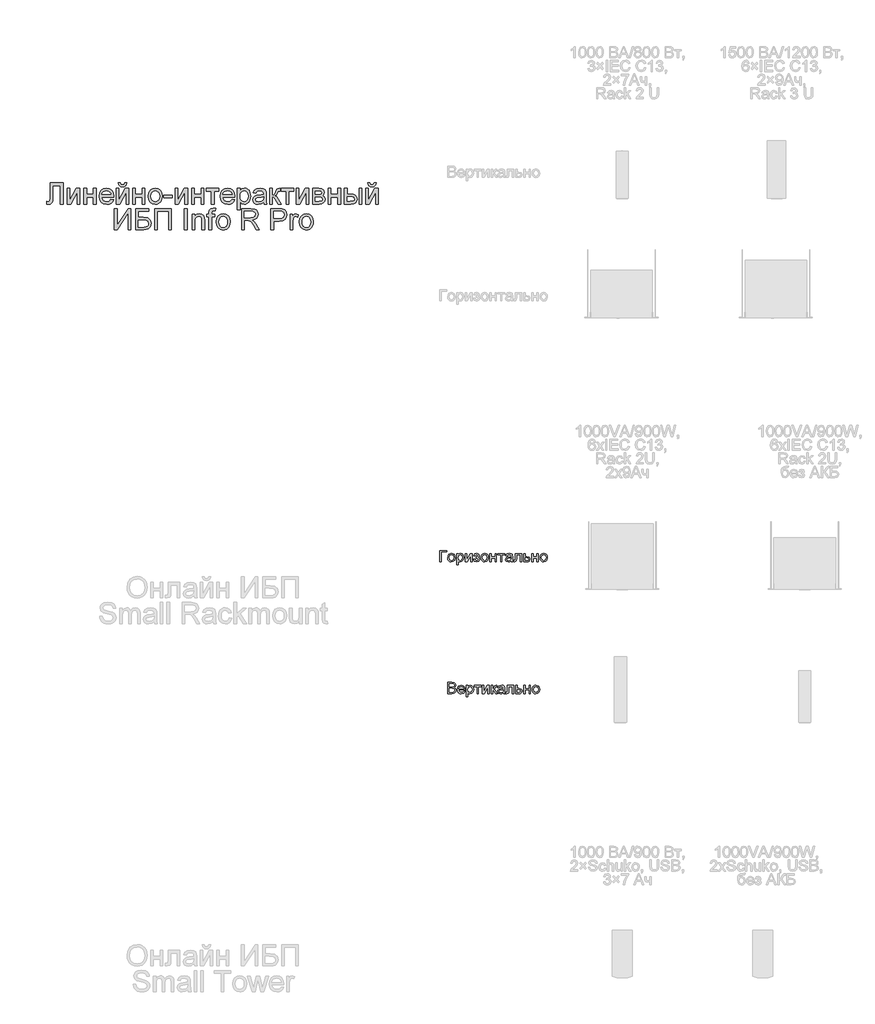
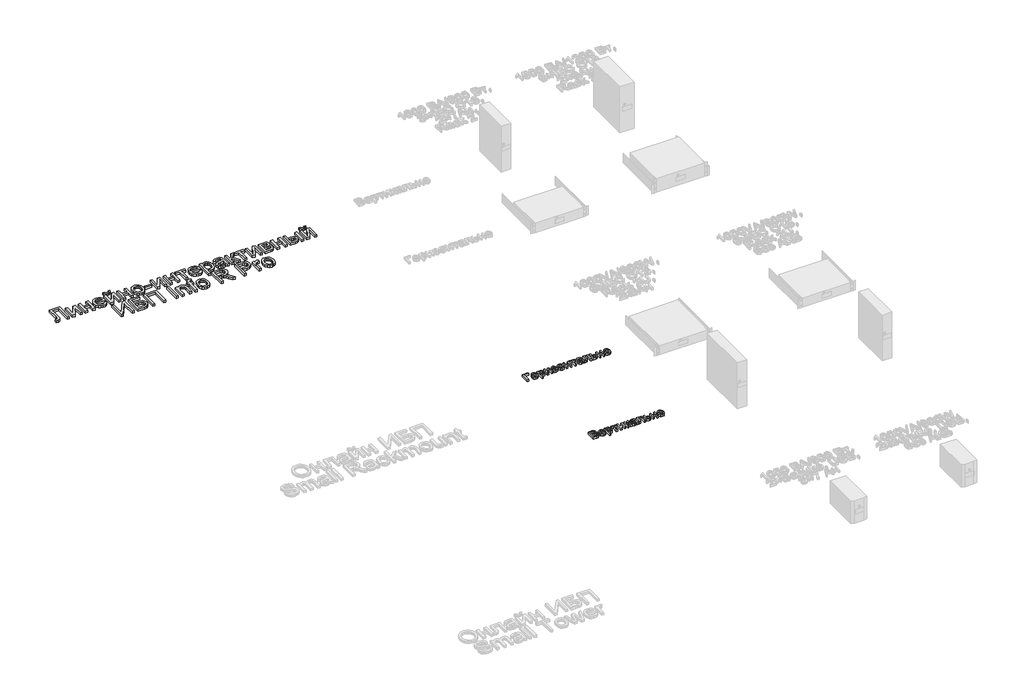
# One storey, part 64 of 74: 3 proxies.
"""IFC4 building model written with IfcOpenShell, lengths in millimetres."""

import ifcopenshell
import ifcopenshell.guid

model = None  # the IFC model being written
_history = None  # IfcOwnerHistory: only IFC2X3 demands one
_inside = {}  # id of a spatial element -> (the spatial element, [elements in it])
_under = {}  # id of a project, library or spatial element -> (it, [spatial elements below it])
_declared = {}  # id of a project -> (the project, [libraries it declares])
_typed = {}  # id of a type object -> (the type object, [elements of that type])
_made_of = {}  # id of a material, layer set ... -> (it, [elements and type objects made of it])


def new_model(schema):
    """Start an empty IFC model of exactly this schema.

    Asked for "IFC4X3", IfcOpenShell would pick the latest addendum, in which some entities
    have other attributes; the version numbers below select the first issue.
    IFC2X3 requires an IfcOwnerHistory on every rooted entity: one is made here for all.
    """
    global model, _history
    if schema == "IFC4X3":
        model = ifcopenshell.file(schema_version=(4, 3, 0, 0))
    else:
        model = ifcopenshell.file(schema=schema)
    _inside.clear()
    _under.clear()
    _declared.clear()
    _typed.clear()
    _made_of.clear()
    _history = None
    if model.schema == "IFC2X3":
        org = make("IfcOrganization", Name="unknown")
        user = make(
            "IfcPersonAndOrganization",
            ThePerson=make("IfcPerson", FamilyName="unknown"),
            TheOrganization=org,
        )
        app = make(
            "IfcApplication",
            ApplicationDeveloper=org,
            Version="unknown",
            ApplicationFullName="unknown",
            ApplicationIdentifier="unknown",
        )
        _history = make(
            "IfcOwnerHistory",
            OwningUser=user,
            OwningApplication=app,
            ChangeAction="ADDED",
            CreationDate=0,
        )
    return model


def make(cls, **values):
    """One entity of the class cls with the attributes given. An attribute that is None is left unset."""
    return model.create_entity(
        cls, **{name: value for name, value in values.items() if value is not None}
    )


def rooted(cls, **values):
    """An entity with a GlobalId (a new one), such as an element, a storey or a relation."""
    return make(cls, GlobalId=ifcopenshell.guid.new(), OwnerHistory=_history, **values)


def si_unit(unit_type, name, prefix=None):
    """IfcSIUnit, for example si_unit("LENGTHUNIT", "METRE", prefix="MILLI")."""
    return make("IfcSIUnit", UnitType=unit_type, Prefix=prefix, Name=name)


def assignment(units):
    """IfcUnitAssignment: the units of a project."""
    return None if units is None else make("IfcUnitAssignment", Units=units)


def point(xyz):
    """IfcCartesianPoint."""
    return None if xyz is None else make("IfcCartesianPoint", Coordinates=xyz)


def direction(xyz):
    """IfcDirection."""
    return None if xyz is None else make("IfcDirection", DirectionRatios=xyz)


def frame(location, z_axis=None, x_axis=None):
    """IfcAxis2Placement3D, a coordinate frame: its origin and axes. An axis left out is left unset."""
    return make(
        "IfcAxis2Placement3D",
        Location=point(location),
        Axis=direction(z_axis),
        RefDirection=direction(x_axis),
    )


def origin():
    """The frame at (0, 0, 0) with its axes left unset."""
    return frame((0.0, 0.0, 0.0))


def origin_with_axes():
    """The frame at (0, 0, 0) with the z axis (0, 0, 1) and the x axis (1, 0, 0) written out."""
    return frame((0.0, 0.0, 0.0), z_axis=(0.0, 0.0, 1.0), x_axis=(1.0, 0.0, 0.0))


def place(relative_to, where):
    """IfcLocalPlacement: puts the frame where relative to a parent placement (None: the world)."""
    return make(
        "IfcLocalPlacement", PlacementRelTo=relative_to, RelativePlacement=where
    )


def context(
    kind, dimensions, precision=None, world=None, true_north=None, identifier=None
):
    """IfcGeometricRepresentationContext, for example the 3D "Model" context."""
    return make(
        "IfcGeometricRepresentationContext",
        ContextIdentifier=identifier,
        ContextType=kind,
        CoordinateSpaceDimension=dimensions,
        Precision=precision,
        WorldCoordinateSystem=world,
        TrueNorth=true_north,
    )


def project(units=None, contexts=None):
    """IfcProject with its units and contexts."""
    return rooted(
        "IfcProject",
        Name="project",
        RepresentationContexts=contexts,
        UnitsInContext=assignment(units),
    )


def spatial(cls, under=None, at=None, **own):
    """A site, building, storey or space (cls), placed at a placement, below another one or the project."""
    s = rooted(cls, ObjectPlacement=at, **own)
    if under is not None:
        _under.setdefault(under.id(), (under, []))[1].append(s)
    return s


def polyline(points):
    """IfcPolyline through the points."""
    return make("IfcPolyline", Points=[point(p) for p in points])


def outline(outer, holes=None, kind="AREA"):
    """IfcArbitraryClosedProfileDef: a profile drawn as a closed curve; with holes, ...WithVoids."""
    if holes is None:
        return make("IfcArbitraryClosedProfileDef", ProfileType=kind, OuterCurve=outer)
    return make(
        "IfcArbitraryProfileDefWithVoids",
        ProfileType=kind,
        OuterCurve=outer,
        InnerCurves=holes,
    )


def extrude(swept, where, along, depth):
    """IfcExtrudedAreaSolid: the profile swept, set in the frame where, extruded along a direction by depth."""
    return make(
        "IfcExtrudedAreaSolid",
        SweptArea=swept,
        Position=where,
        ExtrudedDirection=direction(along),
        Depth=depth,
    )


def shape(context_of_items, identifier, shape_type, items):
    """IfcShapeRepresentation: the items that make up one representation, for example the "Body"."""
    return make(
        "IfcShapeRepresentation",
        ContextOfItems=context_of_items,
        RepresentationIdentifier=identifier,
        RepresentationType=shape_type,
        Items=items,
    )


def made_of(thing, what):
    """Note that an element or type object is made of a material, layer set ...; save() writes the relation."""
    if what is not None:
        _made_of.setdefault(what.id(), (what, []))[1].append(thing)
    return thing


def element(
    cls,
    number,
    at=None,
    inside=None,
    cuts=None,
    type_object=None,
    material=None,
    context=None,
    identifier="Body",
    shape_type=None,
    held_by="IfcProductDefinitionShape",
    body=None,
    shapes=None,
    **own,
):
    """One element of the class cls, such as IfcWall. Its Tag is "e" and its number.

    at: its placement. inside: the storey or other place that contains it. cuts: it is an
    opening in that element (IfcRelVoidsElement). A single representation is given by context,
    identifier, shape_type and body (its items); several are given by shapes. held_by: the class
    of the entity that holds the representations. save() writes the other relations.
    """
    e = rooted(cls, Tag="e%d" % number, ObjectPlacement=at, **own)
    if body is not None:
        shapes = [shape(context, identifier, shape_type, body)]
    if shapes is not None:
        e.Representation = make(held_by, Representations=shapes)
    if inside is not None:
        _inside.setdefault(inside.id(), (inside, []))[1].append(e)
    if cuts is not None:
        rooted(
            "IfcRelVoidsElement", RelatingBuildingElement=cuts, RelatedOpeningElement=e
        )
    if type_object is not None:
        _typed.setdefault(type_object.id(), (type_object, []))[1].append(e)
    return made_of(e, material)


def aggregate(whole, parts):
    """IfcRelAggregates: a whole, such as a stair, and the parts it consists of."""
    return rooted("IfcRelAggregates", RelatingObject=whole, RelatedObjects=parts)


def save(model, path):
    """Write the relations noted so far, then the file.

    IfcRelAggregates (storeys below a building ...), IfcRelContainedInSpatialStructure (elements
    in a storey), IfcRelDefinesByType, IfcRelAssociatesMaterial and IfcRelDeclares: one each for
    every whole, place, type object, material and project.
    """
    for whole, parts in _under.values():
        aggregate(whole, parts)
    for where, things in _inside.values():
        rooted(
            "IfcRelContainedInSpatialStructure",
            RelatedElements=things,
            RelatingStructure=where,
        )
    for kind, things in _typed.values():
        rooted("IfcRelDefinesByType", RelatedObjects=things, RelatingType=kind)
    for what, things in _made_of.values():
        rooted("IfcRelAssociatesMaterial", RelatedObjects=things, RelatingMaterial=what)
    for by, libraries in _declared.values():
        rooted("IfcRelDeclares", RelatingContext=by, RelatedDefinitions=libraries)
    model.write(path)


model = new_model("IFC4")

# Units and contexts
model_context = context("Model", 3, world=origin())
ifc_project = project(units=[si_unit("LENGTHUNIT", "METRE", prefix="MILLI")], contexts=[model_context])

# Site, building, storey
site = spatial("IfcSite", under=ifc_project)
building = spatial("IfcBuilding", under=site)
storey = spatial("IfcBuildingStorey", under=building, Name="Этаж 01", Elevation=0.0)

# Proxies
placement = place(None, origin())
element("IfcBuildingElementProxy", 1, Name="150 мм Arial", ObjectType="150 мм Arial", at=placement, inside=storey, context=model_context, shape_type="SweptSolid", body=[
    extrude(outline(polyline([(-2725.4866549, 4071.0132127), (-2633.6633089, 4071.0132127), (-2633.6633089, 3920.3287475), (-2652.4988671, 3920.3287475), (-2652.4988671, 4052.1776545), (-2706.6510968, 4052.1776545), (-2706.6510968, 3975.2903176), (-2708.8399947, 3940.9853215), (-2712.2291075, 3931.2916309), (-2718.0186504, 3924.0259615), (-2725.9465074, 3919.4872174), (-2735.7505626, 3917.9743027), (-2751.3855474, 3920.3287475), (-2749.0311026, 3939.1643056), (-2740.0179937, 3936.8098609), (-2729.1102926, 3941.8682383), (-2725.4866549, 3965.6885975), (-2725.4866549, 4071.0132127)])), origin_with_axes(), (0.0, 0.0, 1.0), 20.0),
    extrude(outline(polyline([(-2603.0555269, 4030.9876516), (-2584.2199688, 4030.9876516), (-2584.2199688, 3946.5955219), (-2537.9404138, 4030.9876516), (-2513.5866257, 4030.9876516), (-2513.5866257, 3920.3287475), (-2532.4221839, 3920.3287475), (-2532.4221839, 4004.2058424), (-2578.4074333, 3920.3287475), (-2603.0555269, 3920.3287475), (-2603.0555269, 4030.9876516)])), origin_with_axes(), (0.0, 0.0, 1.0), 20.0),
    extrude(outline(polyline([(-2485.3332885, 4030.9876516), (-2466.4977303, 4030.9876516), (-2466.4977303, 3988.6076458), (-2417.0543902, 3988.6076458), (-2417.0543902, 4030.9876516), (-2398.218832, 4030.9876516), (-2398.218832, 3920.3287475), (-2417.0543902, 3920.3287475), (-2417.0543902, 3969.7720876), (-2466.4977303, 3969.7720876), (-2466.4977303, 3920.3287475), (-2485.3332885, 3920.3287475), (-2485.3332885, 4030.9876516)])), origin_with_axes(), (0.0, 0.0, 1.0), 20.0),
    extrude(outline(polyline([(-2292.4895466, 3953.2909742), (-2274.0218705, 3950.9365295), (-2280.675936, 3937.021393), (-2291.2939301, 3926.6195296), (-2305.6367294, 3920.1356094), (-2323.4652106, 3917.9743027), (-2345.5657215, 3921.7037064), (-2362.5710667, 3932.8919176), (-2373.4143885, 3950.8123693), (-2377.0288291, 3974.7384946), (-2373.3776003, 3999.4693617), (-2362.4239139, 4017.964629), (-2345.6484949, 4029.4977295), (-2324.5320684, 4033.3420964), (-2304.0732309, 4029.5069266), (-2287.7254748, 4018.0014172), (-2277.0063131, 3999.5429381), (-2273.4332593, 3974.8488592), (-2273.5436239, 3969.7720876), (-2358.1932709, 3969.7720876), (-2354.9329168, 3955.6730102), (-2347.3591462, 3945.3079349), (-2336.4284524, 3938.9343794), (-2323.0973286, 3936.8098609), (-2304.6296524, 3940.7461982), (-2292.4895466, 3953.2909742)]), holes=[polyline([(-2358.1932709, 3988.6076458), (-2292.2688174, 3988.6076458), (-2294.8164002, 3998.5588537), (-2299.8103983, 4005.6773704), (-2310.7916759, 4012.2992463), (-2324.6056448, 4014.5065382), (-2337.3021721, 4012.7453032), (-2347.8006046, 4007.461598), (-2355.0984637, 3999.2256399), (-2358.1932709, 3988.6076458)])]), origin_with_axes(), (0.0, 0.0, 1.0), 20.0),
    extrude(outline(polyline([(-2254.5977011, 4030.9876516), (-2235.762143, 4030.9876516), (-2235.762143, 3946.5955219), (-2189.482588, 4030.9876516), (-2165.1287999, 4030.9876516), (-2165.1287999, 3920.3287475), (-2183.964358, 3920.3287475), (-2183.964358, 4004.2058424), (-2229.9496074, 3920.3287475), (-2254.5977011, 3920.3287475), (-2254.5977011, 4030.9876516)])), origin_with_axes(), (0.0, 0.0, 1.0), 20.0),
    extrude(outline(polyline([(-2193.3821371, 4071.0132127), (-2179.2554685, 4071.0132127), (-2182.2950935, 4058.9512818), (-2188.3973361, 4050.0623331), (-2197.2862848, 4044.5854899), (-2208.6860281, 4042.7598755), (-2221.0560602, 4044.5716943), (-2230.6485832, 4050.0071508), (-2237.2060798, 4058.8823039), (-2240.4710325, 4071.0132127), (-2226.3443639, 4071.0132127), (-2221.0468631, 4060.3998171), (-2210.3782853, 4056.8865441), (-2198.6796378, 4060.2894525), (-2193.3821371, 4071.0132127)])), origin_with_axes(), (0.0, 0.0, 1.0), 20.0),
    extrude(outline(polyline([(-2136.8754626, 4030.9876516), (-2118.0399045, 4030.9876516), (-2118.0399045, 3988.6076458), (-2068.5965643, 3988.6076458), (-2068.5965643, 4030.9876516), (-2049.7610062, 4030.9876516), (-2049.7610062, 3920.3287475), (-2068.5965643, 3920.3287475), (-2068.5965643, 3969.7720876), (-2118.0399045, 3969.7720876), (-2118.0399045, 3920.3287475), (-2136.8754626, 3920.3287475), (-2136.8754626, 4030.9876516)])), origin_with_axes(), (0.0, 0.0, 1.0), 20.0),
    extrude(outline(polyline([(-2026.2165585, 3975.6581995), (-2022.1422654, 4002.3388412), (-2009.9193861, 4021.091626), (-1994.8178302, 4030.2794788), (-1976.7364301, 4033.3420964), (-1956.9489773, 4029.6126927), (-1941.1438471, 4018.4244815), (-1930.7833704, 4000.6603796), (-1927.3298782, 3977.2033039), (-1928.8565885, 3958.1746077), (-1933.4367193, 3943.6892542), (-1940.9369135, 3932.8413338), (-1951.2238138, 3924.7249373), (-1963.4420945, 3919.6619614), (-1976.7364301, 3917.9743027), (-1996.7630063, 3921.6899109), (-2012.5497424, 3932.8367353), (-2022.7998545, 3950.9733177), (-2026.2165585, 3975.6581995)]), holes=[polyline([(-2007.3810003, 3975.6949877), (-2005.2012995, 3958.6482558), (-1998.6621971, 3946.5035514), (-1988.8213537, 3939.2332835), (-1976.7364301, 3936.8098609), (-1964.7066889, 3939.2470791), (-1954.8842396, 3946.5587337), (-1948.3451372, 3958.8643865), (-1946.1654363, 3976.2835989), (-1948.3589327, 3992.8336902), (-1954.9394219, 4004.8128477), (-1964.7756668, 4012.0831156), (-1976.7364301, 4014.5065382), (-1988.8213537, 4012.0923126), (-1998.6621971, 4004.8496359), (-2005.2012995, 3992.7325226), (-2007.3810003, 3975.6949877)])]), origin_with_axes(), (0.0, 0.0, 1.0), 20.0),
    extrude(outline(polyline([(-1915.5576544, 3965.0631981), (-1915.5576544, 3983.8987562), (-1856.6965351, 3983.8987562), (-1856.6965351, 3965.0631981), (-1915.5576544, 3965.0631981)])), origin_with_axes(), (0.0, 0.0, 1.0), 20.0),
    extrude(outline(polyline([(-1835.5065322, 4030.9876516), (-1816.670974, 4030.9876516), (-1816.670974, 3946.5955219), (-1770.3914191, 4030.9876516), (-1746.037631, 4030.9876516), (-1746.037631, 3920.3287475), (-1764.8731891, 3920.3287475), (-1764.8731891, 4004.2058424), (-1810.8584385, 3920.3287475), (-1835.5065322, 3920.3287475), (-1835.5065322, 4030.9876516)])), origin_with_axes(), (0.0, 0.0, 1.0), 20.0),
    extrude(outline(polyline([(-1717.7842937, 4030.9876516), (-1698.9487356, 4030.9876516), (-1698.9487356, 3988.6076458), (-1649.5053954, 3988.6076458), (-1649.5053954, 4030.9876516), (-1630.6698373, 4030.9876516), (-1630.6698373, 3920.3287475), (-1649.5053954, 3920.3287475), (-1649.5053954, 3969.7720876), (-1698.9487356, 3969.7720876), (-1698.9487356, 3920.3287475), (-1717.7842937, 3920.3287475), (-1717.7842937, 4030.9876516)])), origin_with_axes(), (0.0, 0.0, 1.0), 20.0),
    extrude(outline(polyline([(-1611.8342791, 4030.9876516), (-1522.3653779, 4030.9876516), (-1522.3653779, 4012.1520935), (-1557.6820494, 4012.1520935), (-1557.6820494, 3920.3287475), (-1576.5176076, 3920.3287475), (-1576.5176076, 4012.1520935), (-1611.8342791, 4012.1520935), (-1611.8342791, 4030.9876516)])), origin_with_axes(), (0.0, 0.0, 1.0), 20.0),
    extrude(outline(polyline([(-1428.4083163, 3953.2909742), (-1409.9406402, 3950.9365295), (-1416.5947058, 3937.021393), (-1427.2126999, 3926.6195296), (-1441.5554991, 3920.1356094), (-1459.3839803, 3917.9743027), (-1481.4844912, 3921.7037064), (-1498.4898364, 3932.8919176), (-1509.3331582, 3950.8123693), (-1512.9475988, 3974.7384946), (-1509.29637, 3999.4693617), (-1498.3426836, 4017.964629), (-1481.5672646, 4029.4977295), (-1460.4508381, 4033.3420964), (-1439.9920007, 4029.5069266), (-1423.6442445, 4018.0014172), (-1412.9250829, 3999.5429381), (-1409.352029, 3974.8488592), (-1409.4623936, 3969.7720876), (-1494.1120407, 3969.7720876), (-1490.8516865, 3955.6730102), (-1483.2779159, 3945.3079349), (-1472.3472221, 3938.9343794), (-1459.0160983, 3936.8098609), (-1440.5484222, 3940.7461982), (-1428.4083163, 3953.2909742)]), holes=[polyline([(-1494.1120407, 3988.6076458), (-1428.1875871, 3988.6076458), (-1430.73517, 3998.5588537), (-1435.729168, 4005.6773704), (-1446.7104456, 4012.2992463), (-1460.5244145, 4014.5065382), (-1473.2209419, 4012.7453032), (-1483.7193743, 4007.461598), (-1491.0172334, 3999.2256399), (-1494.1120407, 3988.6076458)])]), origin_with_axes(), (0.0, 0.0, 1.0), 20.0),
    extrude(outline(polyline([(-1390.5164708, 3877.9487416), (-1390.5164708, 4030.9876516), (-1371.6809127, 4030.9876516), (-1371.6809127, 4012.5199755), (-1358.6578901, 4028.1365662), (-1341.0731307, 4033.3420964), (-1328.3352166, 4031.5210805), (-1317.1975892, 4026.0580329), (-1308.129298, 4017.2840473), (-1301.5993926, 4005.5302176), (-1296.3386801, 3976.5043281), (-1297.8240036, 3960.3956953), (-1302.2799743, 3945.9885166), (-1309.5640378, 3934.0139577), (-1319.5336399, 3925.2031839), (-1331.1449153, 3919.781523), (-1343.3539991, 3917.9743027), (-1359.7431419, 3922.8119509), (-1371.6809127, 3935.0440273), (-1371.6809127, 3877.9487416), (-1390.5164708, 3877.9487416)]), holes=[polyline([(-1371.6809127, 3974.7752828), (-1369.6437661, 3957.8894992), (-1363.5323265, 3946.0804871), (-1354.5146191, 3939.1275174), (-1343.7586692, 3936.8098609), (-1332.8279755, 3939.2102909), (-1323.5803418, 3946.4115809), (-1317.2757641, 3958.6528543), (-1315.1742382, 3976.1732343), (-1317.2251803, 3992.9670474), (-1323.3780067, 4004.9416064), (-1332.3819185, 4012.1153053), (-1342.9861171, 4014.5065382), (-1353.6317023, 4011.9635539), (-1362.9805035, 4004.3346011), (-1369.5058104, 3991.8588029), (-1371.6809127, 3974.7752828)])]), origin_with_axes(), (0.0, 0.0, 1.0), 20.0),
    extrude(outline(polyline([(-1204.5153341, 3934.4554161), (-1222.7806751, 3921.6899109), (-1242.9590026, 3917.9743027), (-1258.6997534, 3920.2091858), (-1270.3110289, 3926.9138352), (-1277.4709322, 3937.0949694), (-1279.8575667, 3949.7593071), (-1276.2523231, 3964.6585279), (-1266.7793618, 3975.4742586), (-1253.5907922, 3981.6546761), (-1237.2936198, 3984.4873674), (-1204.6256987, 3990.9620905), (-1204.5153341, 3995.1559453), (-1205.8121181, 4003.5620489), (-1209.7024702, 4009.0618847), (-1218.4028794, 4013.1453749), (-1230.5245911, 4014.5065382), (-1249.5808785, 4010.8829006), (-1258.6675638, 3998.0254249), (-1277.5031219, 4000.3798696), (-1269.3545357, 4018.7739694), (-1252.9469987, 4029.5529118), (-1228.09657, 4033.3420964), (-1205.2694922, 4029.9943702), (-1192.3752282, 4021.5882666), (-1186.5994809, 4008.8043673), (-1185.6797759, 3992.3232539), (-1185.6797759, 3968.8891708), (-1184.7232827, 3936.1660674), (-1180.9708864, 3920.3287475), (-1199.8064445, 3920.3287475), (-1204.5153341, 3934.4554161)]), holes=[polyline([(-1204.5153341, 3972.1265324), (-1234.9023869, 3966.3507851), (-1251.1075888, 3963.2973645), (-1258.4468346, 3958.3309576), (-1261.0220085, 3951.0836823), (-1255.4118081, 3940.893351), (-1238.9490888, 3936.8098609), (-1219.8928015, 3941.3164153), (-1207.6055428, 3952.2241165), (-1204.6256987, 3966.7922435), (-1204.5153341, 3972.1265324)])]), origin_with_axes(), (0.0, 0.0, 1.0), 20.0),
    extrude(outline(polyline([(-1159.7808835, 4030.9876516), (-1140.9453253, 4030.9876516), (-1140.9453253, 3983.8987562), (-1128.3269729, 3987.2832706), (-1117.9894888, 4007.0017455), (-1109.3994442, 4024.0162878), (-1101.8210751, 4029.5529118), (-1088.0438944, 4030.9876516), (-1084.4386508, 4030.9876516), (-1084.4386508, 4012.0417289), (-1089.5154224, 4012.1520935), (-1098.7124723, 4010.1655307), (-1105.1871954, 3997.7679075), (-1112.7839586, 3984.3586087), (-1123.4341423, 3977.7919151), (-1111.5515539, 3970.4618664), (-1099.8896946, 3955.0200196), (-1079.7297613, 3920.3287475), (-1101.1404934, 3920.3287475), (-1120.8957566, 3954.2842556), (-1130.8285704, 3968.6500475), (-1140.9453253, 3972.1265324), (-1140.9453253, 3920.3287475), (-1159.7808835, 3920.3287475), (-1159.7808835, 4030.9876516)])), origin_with_axes(), (0.0, 0.0, 1.0), 20.0),
    extrude(outline(polyline([(-1077.3753165, 4030.9876516), (-987.9064153, 4030.9876516), (-987.9064153, 4012.1520935), (-1023.2230869, 4012.1520935), (-1023.2230869, 3920.3287475), (-1042.058645, 3920.3287475), (-1042.058645, 4012.1520935), (-1077.3753165, 4012.1520935), (-1077.3753165, 4030.9876516)])), origin_with_axes(), (0.0, 0.0, 1.0), 20.0),
    extrude(outline(polyline([(-971.4253019, 4030.9876516), (-952.5897438, 4030.9876516), (-952.5897438, 3946.5955219), (-906.3101888, 4030.9876516), (-881.9564007, 4030.9876516), (-881.9564007, 3920.3287475), (-900.7919589, 3920.3287475), (-900.7919589, 4004.2058424), (-946.7772083, 3920.3287475), (-971.4253019, 3920.3287475), (-971.4253019, 4030.9876516)])), origin_with_axes(), (0.0, 0.0, 1.0), 20.0),
    extrude(outline(polyline([(-853.7030635, 4030.9876516), (-812.2059744, 4030.9876516), (-789.452473, 4028.46766), (-776.6501796, 4019.2338219), (-771.2974966, 4003.1389846), (-774.5348581, 3990.0607797), (-784.283731, 3980.7349711), (-771.6285903, 3970.5262457), (-766.588607, 3952.7759394), (-769.7799833, 3938.4193446), (-777.3675495, 3928.3117868), (-789.3788966, 3922.3245073), (-805.8416159, 3920.3287475), (-853.7030635, 3920.3287475), (-853.7030635, 4030.9876516)]), holes=[polyline([(-834.8675053, 3988.6076458), (-816.2526764, 3988.6076458), (-800.8936031, 3989.564139), (-793.4255986, 3993.3901117), (-790.1330547, 4000.3062932), (-791.5769915, 4005.9256907), (-795.908802, 4009.5401313), (-815.6640652, 4012.1520935), (-834.8675053, 4012.1520935), (-834.8675053, 3988.6076458)]), polyline([(-834.8675053, 3939.1643056), (-811.764516, 3939.1643056), (-791.2734889, 3942.5672141), (-787.0336489, 3947.2071257), (-785.4241652, 3954.3210438), (-788.6431326, 3963.389335), (-797.0308421, 3968.6684416), (-813.603926, 3969.7720876), (-834.8675053, 3969.7720876), (-834.8675053, 3939.1643056)])]), origin_with_axes(), (0.0, 0.0, 1.0), 20.0),
    extrude(outline(polyline([(-743.0441593, 4030.9876516), (-724.2086012, 4030.9876516), (-724.2086012, 3988.6076458), (-674.765261, 3988.6076458), (-674.765261, 4030.9876516), (-655.9297029, 4030.9876516), (-655.9297029, 3920.3287475), (-674.765261, 3920.3287475), (-674.765261, 3969.7720876), (-724.2086012, 3969.7720876), (-724.2086012, 3920.3287475), (-743.0441593, 3920.3287475), (-743.0441593, 4030.9876516)])), origin_with_axes(), (0.0, 0.0, 1.0), 20.0),
    extrude(outline(polyline([(-524.0807958, 4030.9876516), (-505.2452376, 4030.9876516), (-505.2452376, 3920.3287475), (-524.0807958, 3920.3287475), (-524.0807958, 4030.9876516)])), origin_with_axes(), (0.0, 0.0, 1.0), 20.0),
    extrude(outline(polyline([(-627.6763656, 4030.9876516), (-608.8408075, 4030.9876516), (-608.8408075, 3990.9620905), (-585.5538772, 3990.9620905), (-565.4261335, 3988.6030473), (-550.5131171, 3981.5259174), (-541.2838776, 3970.300918), (-538.2074644, 3955.4982662), (-540.7872369, 3942.0199896), (-548.5265544, 3930.6478374), (-561.9312546, 3922.90852), (-581.5071752, 3920.3287475), (-627.6763656, 3920.3287475), (-627.6763656, 4030.9876516)]), holes=[polyline([(-608.8408075, 3939.1643056), (-589.4902145, 3939.1643056), (-564.5110271, 3943.1190371), (-558.9100237, 3948.182013), (-557.0430226, 3955.461478), (-562.5796466, 3967.0497609), (-571.4593982, 3970.8573395), (-587.0254052, 3972.1265324), (-608.8408075, 3972.1265324), (-608.8408075, 3939.1643056)])]), origin_with_axes(), (0.0, 0.0, 1.0), 20.0),
    extrude(outline(polyline([(-476.9919004, 4030.9876516), (-458.1563423, 4030.9876516), (-458.1563423, 3946.5955219), (-411.8767873, 4030.9876516), (-387.5229992, 4030.9876516), (-387.5229992, 3920.3287475), (-406.3585573, 3920.3287475), (-406.3585573, 4004.2058424), (-452.3438067, 3920.3287475), (-476.9919004, 3920.3287475), (-476.9919004, 4030.9876516)])), origin_with_axes(), (0.0, 0.0, 1.0), 20.0),
    extrude(outline(polyline([(-415.7763364, 4071.0132127), (-401.6496678, 4071.0132127), (-404.6892928, 4058.9512818), (-410.7915354, 4050.0623331), (-419.6804841, 4044.5854899), (-431.0802274, 4042.7598755), (-443.4502595, 4044.5716943), (-453.0427825, 4050.0071508), (-459.6002791, 4058.8823039), (-462.8652318, 4071.0132127), (-448.7385632, 4071.0132127), (-443.4410625, 4060.3998171), (-432.7724846, 4056.8865441), (-421.0738371, 4060.2894525), (-415.7763364, 4071.0132127)])), origin_with_axes(), (0.0, 0.0, 1.0), 20.0),
    extrude(outline(polyline([(-2267.5471473, 3888.0509859), (-2248.7115892, 3888.0509859), (-2248.7115892, 3768.7100667), (-2169.8376894, 3888.0509859), (-2149.8249089, 3888.0509859), (-2149.8249089, 3737.3665207), (-2168.660467, 3737.3665207), (-2168.660467, 3856.3763461), (-2247.3504258, 3737.3665207), (-2267.5471473, 3737.3665207), (-2267.5471473, 3888.0509859)])), origin_with_axes(), (0.0, 0.0, 1.0), 20.0),
    extrude(outline(polyline([(-2116.8626821, 3888.0509859), (-2022.6848913, 3888.0509859), (-2022.6848913, 3869.2154278), (-2098.027124, 3869.2154278), (-2098.027124, 3824.4809772), (-2062.7472406, 3824.4809772), (-2031.661212, 3820.6550044), (-2021.2593486, 3815.1275774), (-2013.1567477, 3806.197242), (-2007.9420204, 3794.7009297), (-2006.203778, 3781.4755719), (-2011.1517908, 3760.0096575), (-2025.9222529, 3743.694091), (-2039.1935959, 3738.9484133), (-2059.3627263, 3737.3665207), (-2116.8626821, 3737.3665207), (-2116.8626821, 3888.0509859)]), holes=[polyline([(-2098.027124, 3756.2020789), (-2057.6704691, 3756.2020789), (-2043.4058447, 3757.7563803), (-2033.2063164, 3762.4192846), (-2027.0810812, 3770.1907917), (-2025.0393361, 3781.0709017), (-2029.7114375, 3795.8229697), (-2042.716066, 3803.6956444), (-2071.0981619, 3805.645419), (-2098.027124, 3805.645419), (-2098.027124, 3756.2020789)])]), origin_with_axes(), (0.0, 0.0, 1.0), 20.0),
    extrude(outline(polyline([(-1980.3048855, 3888.0509859), (-1862.582647, 3888.0509859), (-1862.582647, 3737.3665207), (-1881.4182052, 3737.3665207), (-1881.4182052, 3869.2154278), (-1961.4693273, 3869.2154278), (-1961.4693273, 3737.3665207), (-1980.3048855, 3737.3665207), (-1980.3048855, 3888.0509859)])), origin_with_axes(), (0.0, 0.0, 1.0), 20.0),
    extrude(outline(polyline([(-1768.4048563, 3737.3665207), (-1768.4048563, 3888.0509859), (-1749.5692981, 3888.0509859), (-1749.5692981, 3737.3665207), (-1768.4048563, 3737.3665207)])), origin_with_axes(), (0.0, 0.0, 1.0), 20.0),
    extrude(outline(polyline([(-1714.2526266, 3737.3665207), (-1714.2526266, 3848.0254249), (-1695.4170684, 3848.0254249), (-1695.4170684, 3832.5743811), (-1681.0144883, 3845.9284975), (-1661.3511957, 3850.3798696), (-1643.5641012, 3846.7930202), (-1631.4239954, 3837.3752411), (-1625.7770068, 3823.524484), (-1624.7837254, 3805.3143252), (-1624.7837254, 3737.3665207), (-1643.6192835, 3737.3665207), (-1643.6192835, 3802.7759394), (-1645.7897873, 3819.4409938), (-1653.4601269, 3828.2517676), (-1666.391179, 3831.5443115), (-1677.4230403, 3829.6957044), (-1686.8270238, 3824.1498834), (-1693.2695573, 3813.4353203), (-1695.4170684, 3796.0804871), (-1695.4170684, 3737.3665207), (-1714.2526266, 3737.3665207)])), origin_with_axes(), (0.0, 0.0, 1.0), 20.0),
    extrude(outline(polyline([(-1594.1759434, 3737.3665207), (-1594.1759434, 3829.1898667), (-1610.6570567, 3829.1898667), (-1610.6570567, 3848.0254249), (-1594.1759434, 3848.0254249), (-1594.1759434, 3859.1722493), (-1592.1893806, 3874.8808105), (-1582.5508723, 3886.1012114), (-1563.5681614, 3890.4054307), (-1546.3880722, 3888.3452915), (-1549.1471872, 3870.6869558), (-1559.999706, 3871.5698725), (-1571.8639004, 3868.4428756), (-1575.3403852, 3856.7810163), (-1575.3403852, 3848.0254249), (-1554.1503823, 3848.0254249), (-1554.1503823, 3829.1898667), (-1575.3403852, 3829.1898667), (-1575.3403852, 3737.3665207), (-1594.1759434, 3737.3665207)])), origin_with_axes(), (0.0, 0.0, 1.0), 20.0),
    extrude(outline(polyline([(-1542.3781584, 3792.6959728), (-1538.3038653, 3819.3766145), (-1526.0809861, 3838.1293992), (-1510.9794302, 3847.317252), (-1492.8980301, 3850.3798696), (-1473.1105773, 3846.6504659), (-1457.3054471, 3835.4622547), (-1446.9449704, 3817.6981529), (-1443.4914781, 3794.2410772), (-1445.0181884, 3775.212381), (-1449.5983193, 3760.7270274), (-1457.0985134, 3749.8791071), (-1467.3854137, 3741.7627105), (-1479.6036945, 3736.6997346), (-1492.8980301, 3735.0120759), (-1512.9246062, 3738.7276841), (-1528.7113423, 3749.8745085), (-1538.9614544, 3768.0110909), (-1542.3781584, 3792.6959728)]), holes=[polyline([(-1523.5426003, 3792.732761), (-1521.3628995, 3775.686029), (-1514.823797, 3763.5413247), (-1504.9829536, 3756.2710567), (-1492.8980301, 3753.8476341), (-1480.8682889, 3756.2848523), (-1471.0458396, 3763.596507), (-1464.5067371, 3775.9021597), (-1462.3270363, 3793.3213722), (-1464.5205327, 3809.8714634), (-1471.1010219, 3821.8506209), (-1480.9372667, 3829.1208888), (-1492.8980301, 3831.5443115), (-1504.9829536, 3829.1300859), (-1514.823797, 3821.8874091), (-1521.3628995, 3809.7702959), (-1523.5426003, 3792.732761)])]), origin_with_axes(), (0.0, 0.0, 1.0), 20.0),
    extrude(outline(polyline([(-1361.0859112, 3737.3665207), (-1361.0859112, 3888.0509859), (-1296.1547391, 3888.0509859), (-1266.0068096, 3883.9858899), (-1256.7269862, 3878.3572954), (-1249.5256962, 3869.6017039), (-1244.9041786, 3858.7445865), (-1243.3636728, 3846.8114143), (-1245.9158541, 3831.9673758), (-1253.5723981, 3819.661723), (-1266.5632311, 3810.6394171), (-1285.1182792, 3805.645419), (-1274.4129132, 3797.5888033), (-1259.1458104, 3778.2014222), (-1234.0194701, 3737.3665207), (-1255.9084488, 3737.3665207), (-1275.5165591, 3768.5997021), (-1289.680016, 3789.2746702), (-1299.6312239, 3799.0419372), (-1308.5891505, 3802.6287867), (-1319.5152458, 3803.2909742), (-1342.2503531, 3803.2909742), (-1342.2503531, 3737.3665207), (-1361.0859112, 3737.3665207)]), holes=[polyline([(-1342.2503531, 3822.1265324), (-1300.0910764, 3822.1265324), (-1278.5883738, 3824.7936769), (-1266.3746916, 3833.3285391), (-1262.1992309, 3846.1124385), (-1264.1903922, 3855.3002913), (-1270.1638761, 3862.7039165), (-1280.4415794, 3867.5875499), (-1295.3453987, 3869.2154278), (-1342.2503531, 3869.2154278), (-1342.2503531, 3822.1265324)])]), origin_with_axes(), (0.0, 0.0, 1.0), 20.0),
    extrude(outline(polyline([(-1151.5403268, 3737.3665207), (-1151.5403268, 3888.0509859), (-1095.6958399, 3888.0509859), (-1073.1814618, 3886.6162461), (-1054.8793325, 3879.5713059), (-1043.0151382, 3865.0031789), (-1038.5269778, 3844.4569695), (-1041.5574058, 3826.6974662), (-1050.6486896, 3811.8994129), (-1067.6494363, 3801.9114168), (-1094.4082529, 3798.5820847), (-1132.7047686, 3798.5820847), (-1132.7047686, 3737.3665207), (-1151.5403268, 3737.3665207)]), holes=[polyline([(-1132.7047686, 3817.4176429), (-1093.3046069, 3817.4176429), (-1076.6027644, 3819.1466882), (-1065.5663045, 3824.3338244), (-1059.4134781, 3832.6571545), (-1057.362536, 3843.7947819), (-1062.2001842, 3859.3929785), (-1074.9105072, 3867.9278408), (-1093.7460653, 3869.2154278), (-1132.7047686, 3869.2154278), (-1132.7047686, 3817.4176429)])]), origin_with_axes(), (0.0, 0.0, 1.0), 20.0),
    extrude(outline(polyline([(-1014.9825302, 3737.3665207), (-1014.9825302, 3848.0254249), (-998.5014168, 3848.0254249), (-998.5014168, 3831.6546761), (-986.8027693, 3846.7378379), (-975.0305455, 3850.3798696), (-956.1214109, 3844.5673341), (-962.412193, 3827.6815505), (-975.6559449, 3831.5443115), (-986.3061286, 3827.8287033), (-993.0935514, 3817.5280075), (-996.146972, 3795.5286641), (-996.146972, 3737.3665207), (-1014.9825302, 3737.3665207)])), origin_with_axes(), (0.0, 0.0, 1.0), 20.0),
    extrude(outline(polyline([(-949.0580766, 3792.6959728), (-944.9837835, 3819.3766145), (-932.7609042, 3838.1293992), (-917.6593483, 3847.317252), (-899.5779483, 3850.3798696), (-879.7904955, 3846.6504659), (-863.9853652, 3835.4622547), (-853.6248885, 3817.6981529), (-850.1713963, 3794.2410772), (-851.6981066, 3775.212381), (-856.2782374, 3760.7270274), (-863.7784316, 3749.8791071), (-874.0653319, 3741.7627105), (-886.2836127, 3736.6997346), (-899.5779483, 3735.0120759), (-919.6045244, 3738.7276841), (-935.3912605, 3749.8745085), (-945.6413726, 3768.0110909), (-949.0580766, 3792.6959728)]), holes=[polyline([(-930.2225185, 3792.732761), (-928.0428176, 3775.686029), (-921.5037152, 3763.5413247), (-911.6628718, 3756.2710567), (-899.5779483, 3753.8476341), (-887.548207, 3756.2848523), (-877.7257578, 3763.596507), (-871.1866553, 3775.9021597), (-869.0069545, 3793.3213722), (-871.2004509, 3809.8714634), (-877.7809401, 3821.8506209), (-887.6171849, 3829.1208888), (-899.5779483, 3831.5443115), (-911.6628718, 3829.1300859), (-921.5037152, 3821.8874091), (-928.0428176, 3809.7702959), (-930.2225185, 3792.732761)])]), origin_with_axes(), (0.0, 0.0, 1.0), 20.0),
])
element("IfcBuildingElementProxy", 2, Name="80 мм Arial", ObjectType="80 мм Arial", at=placement, inside=storey, context=model_context, shape_type="SweptSolid", body=[
    extrude(outline(polyline([(107.354428, 429.9470378), (107.354428, 510.3120859), (138.0210711, 510.3120859), (153.0404667, 507.947831), (161.9088753, 500.6784828), (165.1168063, 490.3974073), (162.419005, 481.0090588), (154.26674, 473.8966735), (164.1652182, 466.401691), (167.6282141, 453.9035133), (165.2639591, 443.102498), (159.4072778, 435.4113117), (150.6664016, 431.3302741), (137.7856266, 429.9470378), (107.354428, 429.9470378)]), holes=[polyline([(117.400059, 477.6637851), (135.7451078, 477.6637851), (146.4578315, 478.5270816), (152.9031241, 482.2451423), (155.0711753, 488.7885367), (153.0502769, 495.3417413), (147.2622668, 499.216765), (134.3520613, 500.2664549), (117.400059, 500.2664549), (117.400059, 477.6637851)]), polyline([(117.400059, 439.9926688), (138.0014507, 439.9926688), (145.4571925, 440.3850763), (151.7651425, 442.5727479), (155.9442819, 447.0363828), (157.5825831, 453.8054115), (155.6597865, 461.61432), (149.4303181, 466.2741586), (137.0204321, 467.6181541), (117.400059, 467.6181541), (117.400059, 439.9926688)])]), origin_with_axes(), (0.0, 0.0, 1.0), 20.0),
    extrude(outline(polyline([(221.5057586, 447.5268921), (231.3551858, 446.2711882), (222.1434207, 433.3021216), (204.9854044, 428.6913339), (193.1984653, 430.6803493), (184.1289478, 436.6473952), (178.3458429, 446.2049695), (176.4181412, 458.9655696), (178.3654633, 472.1553654), (184.2074293, 482.019508), (193.1543195, 488.1704949), (204.4164136, 490.2208239), (215.3277936, 488.1754), (224.0465969, 482.0391283), (229.7634831, 472.1946062), (231.6691118, 459.0244307), (231.6102507, 456.3168192), (186.4637722, 456.3168192), (192.2419721, 443.2692711), (205.1816082, 438.736965), (215.0310354, 440.8363449), (221.5057586, 447.5268921)]), holes=[polyline([(186.4637722, 466.3624503), (221.6234808, 466.3624503), (217.6013043, 475.4663034), (204.3771729, 480.1751929), (192.0065276, 476.4178915), (186.4637722, 466.3624503)])]), origin_with_axes(), (0.0, 0.0, 1.0), 20.0),
    extrude(outline(polyline([(241.7147428, 407.344368), (241.7147428, 488.96512), (251.7603738, 488.96512), (251.7603738, 479.1156928), (258.7059859, 487.4445411), (268.0845242, 490.2208239), (280.8181464, 486.33599), (289.1371845, 475.3878219), (291.9428979, 459.9073475), (288.7742076, 443.632248), (279.5722527, 432.5467373), (266.8680611, 428.6913339), (258.1271849, 431.271413), (251.7603738, 437.7951871), (251.7603738, 407.344368), (241.7147428, 407.344368)]), holes=[polyline([(251.7603738, 458.98519), (256.1062865, 443.681299), (266.652237, 438.736965), (277.4140116, 443.8578823), (281.8972669, 459.7307642), (277.5219237, 475.0738959), (267.0642648, 480.1751929), (256.4005921, 474.7501597), (251.7603738, 458.98519)])]), origin_with_axes(), (0.0, 0.0, 1.0), 20.0),
    extrude(outline(polyline([(298.2214173, 488.96512), (345.9381646, 488.96512), (345.9381646, 478.919489), (327.1026064, 478.919489), (327.1026064, 429.9470378), (317.0569754, 429.9470378), (317.0569754, 478.919489), (298.2214173, 478.919489), (298.2214173, 488.96512)])), origin_with_axes(), (0.0, 0.0, 1.0), 20.0),
    extrude(outline(polyline([(354.7280917, 488.96512), (364.7737228, 488.96512), (364.7737228, 443.9559842), (389.4561521, 488.96512), (402.4448391, 488.96512), (402.4448391, 429.9470378), (392.399208, 429.9470378), (392.399208, 474.6814884), (367.8737417, 429.9470378), (354.7280917, 429.9470378), (354.7280917, 488.96512)])), origin_with_axes(), (0.0, 0.0, 1.0), 20.0),
    extrude(outline(polyline([(417.5132856, 488.96512), (427.5589166, 488.96512), (427.5589166, 463.8510425), (434.2887046, 465.6561168), (439.8020294, 476.1726368), (444.3833865, 485.2470593), (448.4251834, 488.1999255), (455.7730131, 488.96512), (457.6958096, 488.96512), (457.6958096, 478.8606279), (454.9881982, 478.919489), (450.0831049, 477.8599889), (446.6299192, 471.2479231), (442.5783122, 464.0962972), (436.8982142, 460.5940606), (443.2355947, 456.6847012), (449.455253, 448.4490496), (460.2072174, 429.9470378), (448.7881603, 429.9470378), (438.2520199, 448.0566422), (432.9545192, 455.7183979), (427.5589166, 457.5725231), (427.5589166, 429.9470378), (417.5132856, 429.9470378), (417.5132856, 488.96512)])), origin_with_axes(), (0.0, 0.0, 1.0), 20.0),
    extrude(outline(polyline([(504.1568531, 437.4812611), (494.4153379, 430.6729916), (483.6535632, 428.6913339), (469.0658158, 433.4590846), (463.974329, 445.6433363), (465.8971256, 453.5895874), (470.9493717, 459.3579771), (477.9832754, 462.6541997), (486.6751007, 464.1649685), (504.097992, 467.6181541), (504.1568531, 469.8548767), (501.3903805, 477.2713777), (490.2852493, 480.1751929), (480.1218961, 478.2425862), (475.2756639, 471.3852658), (465.2300329, 472.6409696), (469.5759455, 482.4511562), (478.3266319, 488.1999255), (491.5801939, 490.2208239), (503.7546354, 488.43537), (510.6315762, 483.9521147), (513.7119748, 477.1340351), (514.2024841, 468.3441079), (514.2024841, 455.8459303), (514.7126138, 438.3936084), (516.7138919, 429.9470378), (506.6682608, 429.9470378), (504.1568531, 437.4812611)]), holes=[polyline([(504.1568531, 457.5725231), (487.9504249, 454.4921245), (479.3076506, 452.8636336), (475.3933862, 450.2148832), (474.01996, 446.3496697), (477.0120669, 440.9148264), (485.7921839, 438.736965), (495.9555371, 441.1404607), (502.5087417, 446.9579013), (504.097992, 454.727569), (504.1568531, 457.5725231)])]), origin_with_axes(), (0.0, 0.0, 1.0), 20.0),
    extrude(outline(polyline([(533.0380423, 488.96512), (578.2433818, 488.96512), (578.2433818, 430.0058989), (568.1977508, 430.0058989), (568.1977508, 478.919489), (543.0836733, 478.919489), (543.0836733, 450.7642537), (542.4067704, 437.7755667), (538.6887097, 432.2916724), (529.8987826, 429.9470378), (521.7367074, 430.4571675), (521.7367074, 439.9926688), (526.2297728, 439.9926688), (530.7718892, 440.6107106), (532.5867737, 442.5727479), (533.0380423, 451.3332445), (533.0380423, 488.96512)])), origin_with_axes(), (0.0, 0.0, 1.0), 20.0),
    extrude(outline(polyline([(593.3118283, 488.96512), (603.3574594, 488.96512), (603.3574594, 467.6181541), (614.9334795, 467.6181541), (632.3956115, 462.5855284), (636.9867788, 456.5988621), (638.5171679, 448.7041145), (633.3079589, 435.4505525), (626.5364776, 431.3229165), (616.6404519, 429.9470378), (593.3118283, 429.9470378), (593.3118283, 488.96512)]), holes=[polyline([(603.3574594, 439.9926688), (612.7359977, 439.9926688), (624.8515781, 442.1018589), (628.4715369, 448.6844941), (625.793356, 454.8649116), (613.9328404, 457.5725231), (603.3574594, 457.5725231), (603.3574594, 439.9926688)])]), origin_with_axes(), (0.0, 0.0, 1.0), 20.0),
    extrude(outline(polyline([(651.0742067, 488.96512), (661.1198377, 488.96512), (661.1198377, 466.3624503), (687.4896191, 466.3624503), (687.4896191, 488.96512), (697.5352501, 488.96512), (697.5352501, 429.9470378), (687.4896191, 429.9470378), (687.4896191, 456.3168192), (661.1198377, 456.3168192), (661.1198377, 429.9470378), (651.0742067, 429.9470378), (651.0742067, 488.96512)])), origin_with_axes(), (0.0, 0.0, 1.0), 20.0),
    extrude(outline(polyline([(710.0922889, 459.4560789), (712.2652452, 473.6857545), (718.7841142, 483.6872397), (726.8382773, 488.5874279), (736.4816907, 490.2208239), (747.0349989, 488.2318086), (755.4644016, 482.2647626), (760.9899892, 472.790575), (762.8318517, 460.2801346), (759.5748698, 442.4059747), (750.0884194, 432.2916724), (736.4816907, 428.6913339), (725.8008501, 430.6729916), (717.3812575, 436.6179647), (711.914531, 446.2908086), (710.0922889, 459.4560789)]), holes=[polyline([(720.1379199, 459.4756993), (724.7879483, 443.9069333), (736.4816907, 438.736965), (748.1361923, 443.9363638), (752.7862207, 459.7896253), (748.1067617, 475.0052246), (736.4816907, 480.1751929), (724.7879483, 475.024845), (720.1379199, 459.4756993)])]), origin_with_axes(), (0.0, 0.0, 1.0), 20.0),
])
element("IfcBuildingElementProxy", 3, Name="80 мм Arial", ObjectType="80 мм Arial", at=placement, inside=storey, context=model_context, shape_type="SweptSolid", body=[
    extrude(outline(polyline([(52.7313094, 1450.3120859), (102.9594644, 1450.3120859), (102.9594644, 1440.2664549), (62.7769404, 1440.2664549), (62.7769404, 1369.9470378), (52.7313094, 1369.9470378), (52.7313094, 1450.3120859)])), origin_with_axes(), (0.0, 0.0, 1.0), 20.0),
    extrude(outline(polyline([(107.9822799, 1399.4560789), (110.1552363, 1413.6857545), (116.6741052, 1423.6872397), (124.7282684, 1428.5874279), (134.3716817, 1430.2208239), (144.9249899, 1428.2318086), (153.3543927, 1422.2647626), (158.8799802, 1412.790575), (160.7218428, 1400.2801346), (157.4648608, 1382.4059747), (147.9784105, 1372.2916724), (134.3716817, 1368.6913339), (123.6908411, 1370.6729916), (115.2712485, 1376.6179647), (109.8045221, 1386.2908086), (107.9822799, 1399.4560789)]), holes=[polyline([(118.027911, 1399.4756993), (122.6779394, 1383.9069333), (134.3716817, 1378.736965), (146.0261833, 1383.9363638), (150.6762117, 1399.7896253), (145.9967528, 1415.0052246), (134.3716817, 1420.1751929), (122.6779394, 1415.024845), (118.027911, 1399.4756993)])]), origin_with_axes(), (0.0, 0.0, 1.0), 20.0),
    extrude(outline(polyline([(172.0231777, 1347.344368), (172.0231777, 1428.96512), (182.0688087, 1428.96512), (182.0688087, 1419.1156928), (189.0144207, 1427.4445411), (198.3929591, 1430.2208239), (211.1265812, 1426.33599), (219.4456194, 1415.3878219), (222.2513327, 1399.9073475), (219.0826425, 1383.632248), (209.8806875, 1372.5467373), (197.1764959, 1368.6913339), (188.4356197, 1371.271413), (182.0688087, 1377.7951871), (182.0688087, 1347.344368), (172.0231777, 1347.344368)]), holes=[polyline([(182.0688087, 1398.98519), (186.4147213, 1383.681299), (196.9606718, 1378.736965), (207.7224465, 1383.8578823), (212.2057017, 1399.7307642), (207.8303585, 1415.0738959), (197.3726997, 1420.1751929), (186.7090269, 1414.7501597), (182.0688087, 1398.98519)])]), origin_with_axes(), (0.0, 0.0, 1.0), 20.0),
    extrude(outline(polyline([(233.5526676, 1428.96512), (243.5982986, 1428.96512), (243.5982986, 1383.9559842), (268.280728, 1428.96512), (281.2694149, 1428.96512), (281.2694149, 1369.9470378), (271.2237839, 1369.9470378), (271.2237839, 1414.6814884), (246.6983176, 1369.9470378), (233.5526676, 1369.9470378), (233.5526676, 1428.96512)])), origin_with_axes(), (0.0, 0.0, 1.0), 20.0),
    extrude(outline(polyline([(310.1506041, 1396.3168192), (310.1506041, 1406.3624503), (318.0772348, 1406.7548577), (322.0797909, 1408.8444274), (323.9633468, 1413.2099605), (321.4421288, 1418.2818269), (314.9379751, 1420.1751929), (308.2179974, 1418.2916371), (303.8720847, 1412.6409696), (292.5707498, 1413.8966735), (300.1245935, 1426.1397863), (313.9177157, 1430.2208239), (328.6722363, 1425.2470593), (334.0089778, 1413.3669234), (332.1107067, 1407.1276448), (326.4158934, 1402.301033), (333.0573897, 1396.042134), (335.2646816, 1387.0363828), (333.8642775, 1379.6419547), (329.6630651, 1373.7828208), (313.9961972, 1368.6913339), (298.5451534, 1373.4002235), (291.315046, 1387.5268921), (302.6163809, 1388.782596), (307.148687, 1381.366095), (314.9575955, 1378.736965), (322.295615, 1381.2581829), (325.2190506, 1387.7034755), (323.4041661, 1392.9813558), (319.5389526, 1395.8066895), (312.1126414, 1396.3756804), (310.1506041, 1396.3168192)])), origin_with_axes(), (0.0, 0.0, 1.0), 20.0),
    extrude(outline(polyline([(345.3103127, 1399.4560789), (347.483269, 1413.6857545), (354.0021379, 1423.6872397), (362.0563011, 1428.5874279), (371.6997145, 1430.2208239), (382.2530226, 1428.2318086), (390.6824254, 1422.2647626), (396.208013, 1412.790575), (398.0498755, 1400.2801346), (394.7928936, 1382.4059747), (385.3064432, 1372.2916724), (371.6997145, 1368.6913339), (361.0188739, 1370.6729916), (352.5992813, 1376.6179647), (347.1325548, 1386.2908086), (345.3103127, 1399.4560789)]), holes=[polyline([(355.3559437, 1399.4756993), (360.0059721, 1383.9069333), (371.6997145, 1378.736965), (383.3542161, 1383.9363638), (388.0042445, 1399.7896253), (383.3247855, 1415.0052246), (371.6997145, 1420.1751929), (360.0059721, 1415.024845), (355.3559437, 1399.4756993)])]), origin_with_axes(), (0.0, 0.0, 1.0), 20.0),
    extrude(outline(polyline([(409.3512104, 1428.96512), (419.3968414, 1428.96512), (419.3968414, 1406.3624503), (445.7666228, 1406.3624503), (445.7666228, 1428.96512), (455.8122538, 1428.96512), (455.8122538, 1369.9470378), (445.7666228, 1369.9470378), (445.7666228, 1396.3168192), (419.3968414, 1396.3168192), (419.3968414, 1369.9470378), (409.3512104, 1369.9470378), (409.3512104, 1428.96512)])), origin_with_axes(), (0.0, 0.0, 1.0), 20.0),
    extrude(outline(polyline([(465.8578848, 1428.96512), (513.5746322, 1428.96512), (513.5746322, 1418.919489), (494.739074, 1418.919489), (494.739074, 1369.9470378), (484.693443, 1369.9470378), (484.693443, 1418.919489), (465.8578848, 1418.919489), (465.8578848, 1428.96512)])), origin_with_axes(), (0.0, 0.0, 1.0), 20.0),
    extrude(outline(polyline([(560.0356756, 1377.4812611), (550.2941604, 1370.6729916), (539.5323857, 1368.6913339), (524.9446384, 1373.4590846), (519.8531515, 1385.6433363), (521.7759481, 1393.5895874), (526.8281942, 1399.3579771), (533.8620979, 1402.6541997), (542.5539232, 1404.1649685), (559.9768145, 1407.6181541), (560.0356756, 1409.8548767), (557.269203, 1417.2713777), (546.1640718, 1420.1751929), (536.0007186, 1418.2425862), (531.1544864, 1411.3852658), (521.1088554, 1412.6409696), (525.4547681, 1422.4511562), (534.2054545, 1428.1999255), (547.4590165, 1430.2208239), (559.633458, 1428.43537), (566.5103987, 1423.9521147), (569.5907973, 1417.1340351), (570.0813066, 1408.3441079), (570.0813066, 1395.8459303), (570.5914363, 1378.3936084), (572.5927144, 1369.9470378), (562.5470834, 1369.9470378), (560.0356756, 1377.4812611)]), holes=[polyline([(560.0356756, 1397.5725231), (543.8292474, 1394.4921245), (535.1864731, 1392.8636336), (531.2722087, 1390.2148832), (529.8987826, 1386.3496697), (532.8908895, 1380.9148264), (541.6710064, 1378.736965), (551.8343597, 1381.1404607), (558.3875643, 1386.9579013), (559.9768145, 1394.727569), (560.0356756, 1397.5725231)])]), origin_with_axes(), (0.0, 0.0, 1.0), 20.0),
    extrude(outline(polyline([(588.9168648, 1428.96512), (634.1222043, 1428.96512), (634.1222043, 1370.0058989), (624.0765733, 1370.0058989), (624.0765733, 1418.919489), (598.9624958, 1418.919489), (598.9624958, 1390.7642537), (598.2855929, 1377.7755667), (594.5675322, 1372.2916724), (585.7776051, 1369.9470378), (577.6155299, 1370.4571675), (577.6155299, 1379.9926688), (582.1085953, 1379.9926688), (586.6507117, 1380.6107106), (588.4655962, 1382.5727479), (588.9168648, 1391.3332445), (588.9168648, 1428.96512)])), origin_with_axes(), (0.0, 0.0, 1.0), 20.0),
    extrude(outline(polyline([(649.1906509, 1428.96512), (659.2362819, 1428.96512), (659.2362819, 1407.6181541), (670.812302, 1407.6181541), (688.274434, 1402.5855284), (692.8656013, 1396.5988621), (694.3959904, 1388.7041145), (689.1867814, 1375.4505525), (682.4153001, 1371.3229165), (672.5192745, 1369.9470378), (649.1906509, 1369.9470378), (649.1906509, 1428.96512)]), holes=[polyline([(659.2362819, 1379.9926688), (668.6148202, 1379.9926688), (680.7304006, 1382.1018589), (684.3503594, 1388.6844941), (681.6721785, 1394.8649116), (669.811663, 1397.5725231), (659.2362819, 1397.5725231), (659.2362819, 1379.9926688)])]), origin_with_axes(), (0.0, 0.0, 1.0), 20.0),
    extrude(outline(polyline([(706.9530292, 1428.96512), (716.9986602, 1428.96512), (716.9986602, 1406.3624503), (743.3684416, 1406.3624503), (743.3684416, 1428.96512), (753.4140726, 1428.96512), (753.4140726, 1369.9470378), (743.3684416, 1369.9470378), (743.3684416, 1396.3168192), (716.9986602, 1396.3168192), (716.9986602, 1369.9470378), (706.9530292, 1369.9470378), (706.9530292, 1428.96512)])), origin_with_axes(), (0.0, 0.0, 1.0), 20.0),
    extrude(outline(polyline([(765.9711114, 1399.4560789), (768.1440677, 1413.6857545), (774.6629367, 1423.6872397), (782.7170998, 1428.5874279), (792.3605132, 1430.2208239), (802.9138214, 1428.2318086), (811.3432242, 1422.2647626), (816.8688117, 1412.790575), (818.7106742, 1400.2801346), (815.4536923, 1382.4059747), (805.9672419, 1372.2916724), (792.3605132, 1368.6913339), (781.6796726, 1370.6729916), (773.26008, 1376.6179647), (767.7933536, 1386.2908086), (765.9711114, 1399.4560789)]), holes=[polyline([(776.0167424, 1399.4756993), (780.6667708, 1383.9069333), (792.3605132, 1378.736965), (804.0150148, 1383.9363638), (808.6650432, 1399.7896253), (803.9855843, 1415.0052246), (792.3605132, 1420.1751929), (780.6667708, 1415.024845), (776.0167424, 1399.4756993)])]), origin_with_axes(), (0.0, 0.0, 1.0), 20.0),
])

save(model, "model.ifc")
